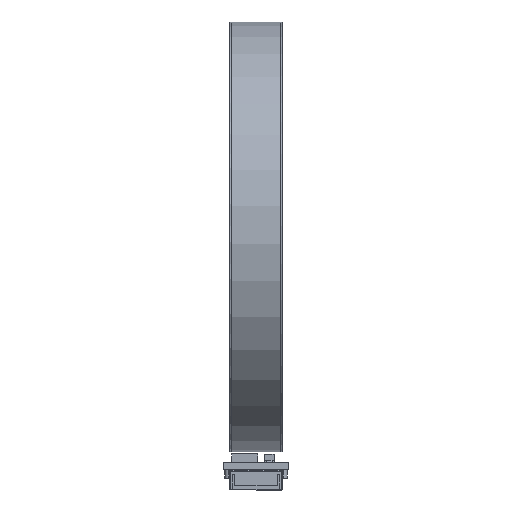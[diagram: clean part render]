
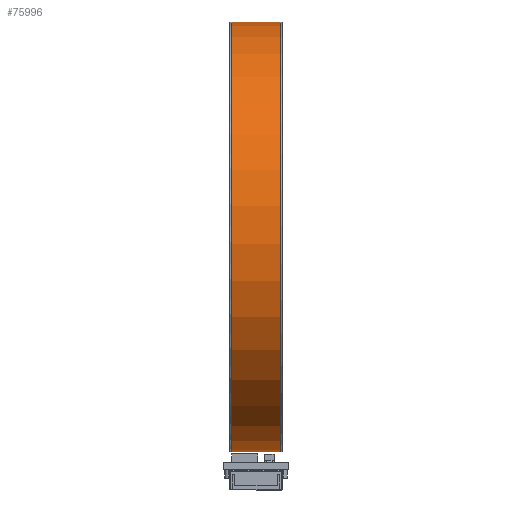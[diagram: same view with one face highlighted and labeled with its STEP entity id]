
A CAD part, left-side view. The second image highlights one B-rep face of the part: STEP entity #75996.
In plain terms, the highlighted cylindrical face has radius 57.1 mm (diameter 114.2 mm), a partial arc.
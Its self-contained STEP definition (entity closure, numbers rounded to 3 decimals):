
#228 = CARTESIAN_POINT ( 'NONE',  ( 0., 13.5, 0. ) ) ;
#2645 = ORIENTED_EDGE ( 'NONE', *, *, #44401, .T. ) ;
#8229 = VECTOR ( 'NONE', #20898, 1000. ) ;
#10124 = VECTOR ( 'NONE', #36681, 1000. ) ;
#10669 = CARTESIAN_POINT ( 'NONE',  ( 0., 13.5, 0. ) ) ;
#12289 = AXIS2_PLACEMENT_3D ( 'NONE', #10669, #60236, #17696 ) ;
#14535 = CARTESIAN_POINT ( 'NONE',  ( 1.767, 0.5, -57.073 ) ) ;
#15383 = CYLINDRICAL_SURFACE ( 'NONE', #12289, 57.1 ) ;
#17696 = DIRECTION ( 'NONE',  ( 0.031, 0., -1. ) ) ;
#19170 = CARTESIAN_POINT ( 'NONE',  ( 1.767, 13.5, -57.073 ) ) ;
#20898 = DIRECTION ( 'NONE',  ( 0., -1., 0. ) ) ;
#22195 = EDGE_CURVE ( 'NONE', #68948, #67132, #44567, .T. ) ;
#26706 = AXIS2_PLACEMENT_3D ( 'NONE', #228, #54508, #53736 ) ;
#26891 = DIRECTION ( 'NONE',  ( -0.031, 0., 1. ) ) ;
#30368 = CARTESIAN_POINT ( 'NONE',  ( 1.767, 13.5, -57.073 ) ) ;
#30448 = ORIENTED_EDGE ( 'NONE', *, *, #44555, .T. ) ;
#35298 = ORIENTED_EDGE ( 'NONE', *, *, #58607, .F. ) ;
#36681 = DIRECTION ( 'NONE',  ( 0., -1., 0. ) ) ;
#38175 = CARTESIAN_POINT ( 'NONE',  ( -1.767, 0.5, 57.073 ) ) ;
#39023 = FACE_OUTER_BOUND ( 'NONE', #48825, .T. ) ;
#44401 = EDGE_CURVE ( 'NONE', #72371, #67132, #76829, .T. ) ;
#44555 = EDGE_CURVE ( 'NONE', #76317, #72371, #48873, .T. ) ;
#44567 = LINE ( 'NONE', #74897, #8229 ) ;
#48429 = ORIENTED_EDGE ( 'NONE', *, *, #22195, .F. ) ;
#48825 = EDGE_LOOP ( 'NONE', ( #48429, #35298, #30448, #2645 ) ) ;
#48873 = LINE ( 'NONE', #30368, #10124 ) ;
#50135 = DIRECTION ( 'NONE',  ( 0., 1., 0. ) ) ;
#53736 = DIRECTION ( 'NONE',  ( -0.031, 0., 1. ) ) ;
#54508 = DIRECTION ( 'NONE',  ( 0., 1., 0. ) ) ;
#56836 = CARTESIAN_POINT ( 'NONE',  ( 0., 0.5, 0. ) ) ;
#58079 = AXIS2_PLACEMENT_3D ( 'NONE', #56836, #50135, #26891 ) ;
#58607 = EDGE_CURVE ( 'NONE', #76317, #68948, #60689, .T. ) ;
#60236 = DIRECTION ( 'NONE',  ( 0., -1., 0. ) ) ;
#60689 = CIRCLE ( 'NONE', #26706, 57.1 ) ;
#67132 = VERTEX_POINT ( 'NONE', #38175 ) ;
#67894 = CARTESIAN_POINT ( 'NONE',  ( -1.767, 13.5, 57.073 ) ) ;
#68948 = VERTEX_POINT ( 'NONE', #67894 ) ;
#72371 = VERTEX_POINT ( 'NONE', #14535 ) ;
#74897 = CARTESIAN_POINT ( 'NONE',  ( -1.767, 13.5, 57.073 ) ) ;
#75996 = ADVANCED_FACE ( 'NONE', ( #39023 ), #15383, .T. ) ;
#76317 = VERTEX_POINT ( 'NONE', #19170 ) ;
#76829 = CIRCLE ( 'NONE', #58079, 57.1 ) ;
